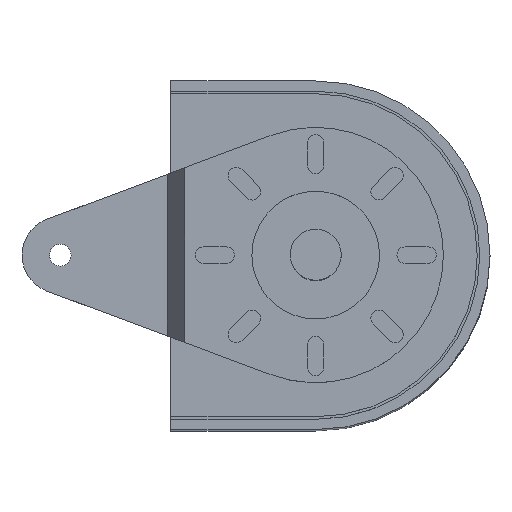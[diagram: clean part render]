
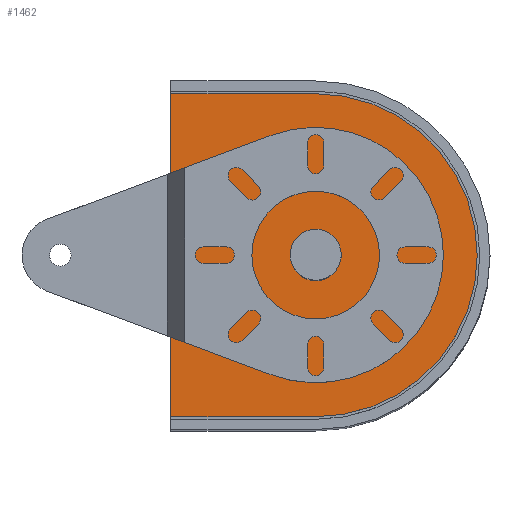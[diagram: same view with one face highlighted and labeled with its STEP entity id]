
A CAD part, top view. The second image highlights one B-rep face of the part: STEP entity #1462.
In plain terms, the highlighted planar face has unit normal (0, 0, 1).
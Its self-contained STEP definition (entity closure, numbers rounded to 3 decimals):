
#66 = EDGE_CURVE ( 'NONE', #2006, #425, #1975, .T. ) ;
#133 = ORIENTED_EDGE ( 'NONE', *, *, #2085, .T. ) ;
#184 = DIRECTION ( 'NONE',  ( 1., 0., 0. ) ) ;
#272 = ORIENTED_EDGE ( 'NONE', *, *, #2489, .T. ) ;
#298 = EDGE_CURVE ( 'NONE', #1284, #1811, #468, .T. ) ;
#377 = ORIENTED_EDGE ( 'NONE', *, *, #995, .F. ) ;
#385 = DIRECTION ( 'NONE',  ( 0., -1., 0. ) ) ;
#392 = CARTESIAN_POINT ( 'NONE',  ( -125., -63.25, 173. ) ) ;
#425 = VERTEX_POINT ( 'NONE', #932 ) ;
#468 = CIRCLE ( 'NONE', #2393, 63.25 ) ;
#548 = LINE ( 'NONE', #392, #1518 ) ;
#554 = CARTESIAN_POINT ( 'NONE',  ( -68.25, 0., 173. ) ) ;
#655 = FACE_OUTER_BOUND ( 'NONE', #1231, .T. ) ;
#671 = EDGE_CURVE ( 'NONE', #2057, #1949, #2493, .T. ) ;
#689 = CARTESIAN_POINT ( 'NONE',  ( -68.25, 0., 173. ) ) ;
#691 = FACE_BOUND ( 'NONE', #943, .T. ) ;
#720 = DIRECTION ( 'NONE',  ( -1., 0., 0. ) ) ;
#932 = CARTESIAN_POINT ( 'NONE',  ( -125., -63.25, 173. ) ) ;
#943 = EDGE_LOOP ( 'NONE', ( #377, #1172 ) ) ;
#963 = AXIS2_PLACEMENT_3D ( 'NONE', #554, #2350, #1725 ) ;
#988 = DIRECTION ( 'NONE',  ( 1., 0., 0. ) ) ;
#995 = EDGE_CURVE ( 'NONE', #1949, #2057, #2616, .T. ) ;
#999 = DIRECTION ( 'NONE',  ( 0., 0., 1. ) ) ;
#1017 = DIRECTION ( 'NONE',  ( 1., 0., 0. ) ) ;
#1070 = CARTESIAN_POINT ( 'NONE',  ( -68.25, 63.25, 173. ) ) ;
#1095 = DIRECTION ( 'NONE',  ( 1., 0., 0. ) ) ;
#1172 = ORIENTED_EDGE ( 'NONE', *, *, #671, .F. ) ;
#1177 = CARTESIAN_POINT ( 'NONE',  ( -125., 63.25, 173. ) ) ;
#1231 = EDGE_LOOP ( 'NONE', ( #272, #1694, #133, #2209 ) ) ;
#1275 = DIRECTION ( 'NONE',  ( 0., 0., 1. ) ) ;
#1284 = VERTEX_POINT ( 'NONE', #1307 ) ;
#1307 = CARTESIAN_POINT ( 'NONE',  ( -68.25, -63.25, 173. ) ) ;
#1326 = CARTESIAN_POINT ( 'NONE',  ( -78.25, 0., 173. ) ) ;
#1462 = ADVANCED_FACE ( 'NONE', ( #655, #691 ), #1803, .T. ) ;
#1518 = VECTOR ( 'NONE', #1017, 1000. ) ;
#1563 = AXIS2_PLACEMENT_3D ( 'NONE', #2437, #999, #988 ) ;
#1694 = ORIENTED_EDGE ( 'NONE', *, *, #66, .T. ) ;
#1715 = CARTESIAN_POINT ( 'NONE',  ( -68.25, 63.25, 173. ) ) ;
#1725 = DIRECTION ( 'NONE',  ( 1., 0., 0. ) ) ;
#1795 = VECTOR ( 'NONE', #385, 1000. ) ;
#1803 = PLANE ( 'NONE',  #1563 ) ;
#1809 = AXIS2_PLACEMENT_3D ( 'NONE', #2421, #1990, #184 ) ;
#1811 = VERTEX_POINT ( 'NONE', #1070 ) ;
#1857 = VECTOR ( 'NONE', #720, 1000. ) ;
#1949 = VERTEX_POINT ( 'NONE', #1326 ) ;
#1975 = LINE ( 'NONE', #2411, #1795 ) ;
#1979 = LINE ( 'NONE', #1715, #1857 ) ;
#1990 = DIRECTION ( 'NONE',  ( 0., 0., 1. ) ) ;
#2006 = VERTEX_POINT ( 'NONE', #1177 ) ;
#2057 = VERTEX_POINT ( 'NONE', #2369 ) ;
#2085 = EDGE_CURVE ( 'NONE', #425, #1284, #548, .T. ) ;
#2209 = ORIENTED_EDGE ( 'NONE', *, *, #298, .T. ) ;
#2350 = DIRECTION ( 'NONE',  ( 0., 0., 1. ) ) ;
#2369 = CARTESIAN_POINT ( 'NONE',  ( -58.25, 0., 173. ) ) ;
#2393 = AXIS2_PLACEMENT_3D ( 'NONE', #689, #1275, #1095 ) ;
#2411 = CARTESIAN_POINT ( 'NONE',  ( -125., 63.25, 173. ) ) ;
#2421 = CARTESIAN_POINT ( 'NONE',  ( -68.25, 0., 173. ) ) ;
#2437 = CARTESIAN_POINT ( 'NONE',  ( -68.25, 0., 173. ) ) ;
#2489 = EDGE_CURVE ( 'NONE', #1811, #2006, #1979, .T. ) ;
#2493 = CIRCLE ( 'NONE', #1809, 10. ) ;
#2616 = CIRCLE ( 'NONE', #963, 10. ) ;
